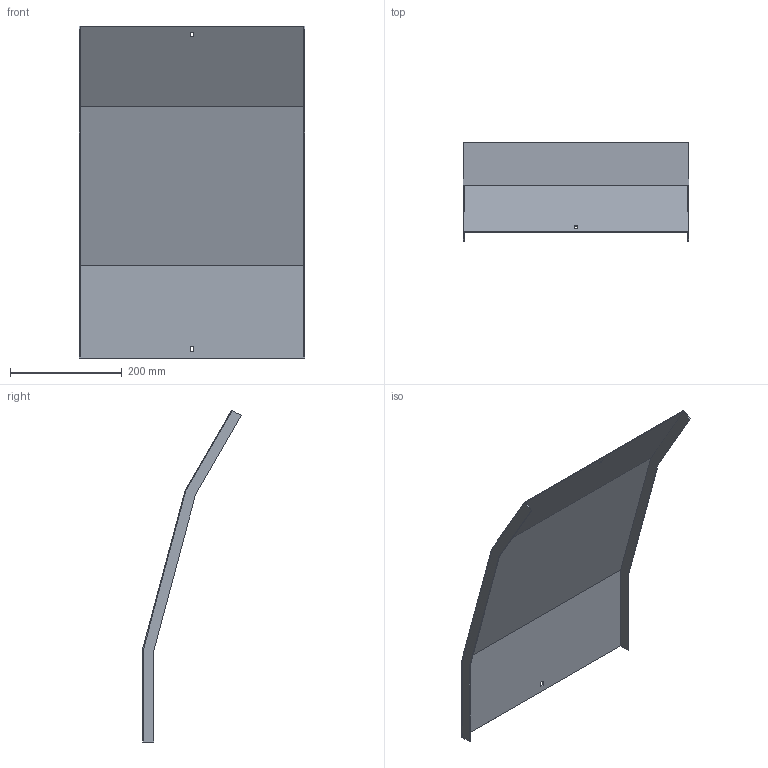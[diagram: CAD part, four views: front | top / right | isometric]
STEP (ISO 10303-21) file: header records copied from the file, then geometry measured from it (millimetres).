
FILE_DESCRIPTION (( 'STEP AP214' ), '1' );
FILE_NAME ('35N5J400.step', '2025-02-21T10:29:41', ( '' ), ( '' ), 'SwSTEP 2.0', 'SolidWorks 2023', '' );
FILE_SCHEMA (( 'AUTOMOTIVE_DESIGN' ));
Length unit declared in the file: millimetre
Products named in the file (1): 35N5J400
Bounding box: 403 x 176.54 x 594.21 mm (x, y, z)
Volume: 412782.8 mm3; surface area: 553639.3 mm2
Topology: 1 solids, 1 shells, 26 faces, 72 edges, 48 vertices
Faces by surface type: plane 26
Entity records: 847 total; most frequent: CARTESIAN_POINT 147, ORIENTED_EDGE 144, DIRECTION 126, EDGE_CURVE 72, LINE 72, VECTOR 72, VERTEX_POINT 48, EDGE_LOOP 30
